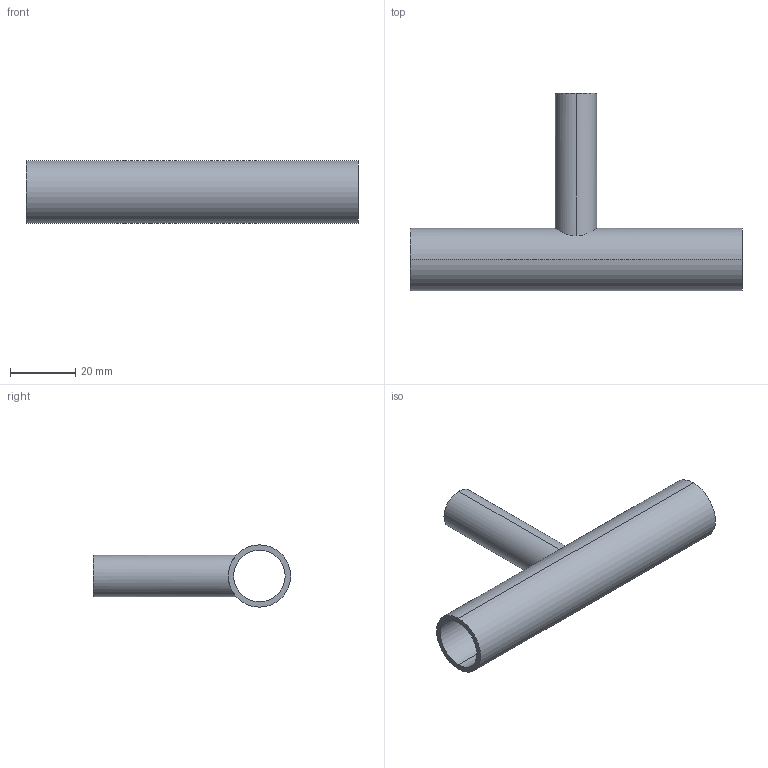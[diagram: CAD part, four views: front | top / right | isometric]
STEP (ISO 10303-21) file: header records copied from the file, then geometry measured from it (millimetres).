
FILE_DESCRIPTION (( 'STEP AP214' ), '1' );
FILE_NAME ('TE7RWWW6L.75x.5-...STEP', '2016-05-24T04:00:25', ( 'eran' ), ( '' ), 'SwSTEP 2.0', 'SolidWorks 2016', '' );
FILE_SCHEMA (( 'AUTOMOTIVE_DESIGN' ));
Length unit declared in the file: millimetre
Products named in the file (1): TE7RWWW6L.75x.5-..
Bounding box: 101.6 x 60.33 x 19.05 mm (x, y, z)
Volume: 11459.3 mm3; surface area: 14120.5 mm2
Topology: 1 solids, 1 shells, 11 faces, 24 edges, 16 vertices
Faces by surface type: cylinder 8, plane 3
Entity records: 492 total; most frequent: CARTESIAN_POINT 200, DIRECTION 56, ORIENTED_EDGE 48, EDGE_CURVE 24, AXIS2_PLACEMENT_3D 24, EDGE_LOOP 16, VERTEX_POINT 16, CIRCLE 12
